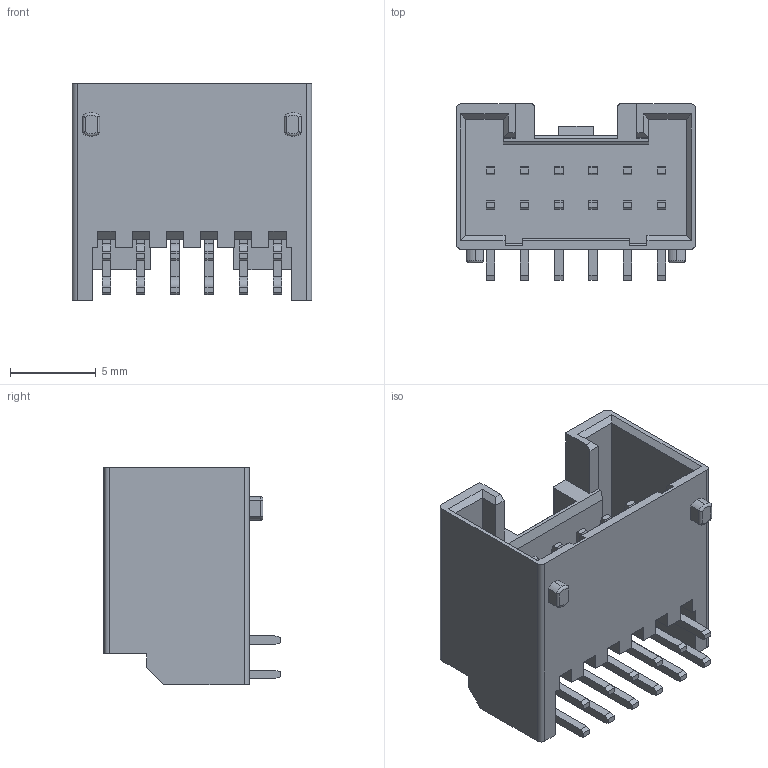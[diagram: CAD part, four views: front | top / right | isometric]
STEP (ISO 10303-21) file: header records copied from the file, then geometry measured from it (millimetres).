
FILE_DESCRIPTION((''),'2;1');
FILE_NAME('51470-012-1_ASM','2019-11-29T',('k94556'),(''),'PRO/ENGINEER BY PARAMETRIC TECHNOLOGY CORPORATION, 2009360','PRO/ENGINEER BY PARAMETRIC TECHNOLOGY CORPORATION, 2009360','');
FILE_SCHEMA(('CONFIG_CONTROL_DESIGN'));
Length unit declared in the file: millimetre
Products named in the file (1): 51470-012-1_ASM
Bounding box: 14 x 10.3 x 12.7 mm (x, y, z)
Volume: 501.1 mm3; surface area: 1392.9 mm2
Topology: 1 solids, 1 shells, 384 faces, 1051 edges, 696 vertices
Faces by surface type: plane 340, cylinder 40, torus 4
Entity records: 12037 total; most frequent: CARTESIAN_POINT 2185, ORIENTED_EDGE 2102, DIRECTION 1889, EDGE_CURVE 1051, VECTOR 965, LINE 965, VERTEX_POINT 696, AXIS2_PLACEMENT_3D 462
